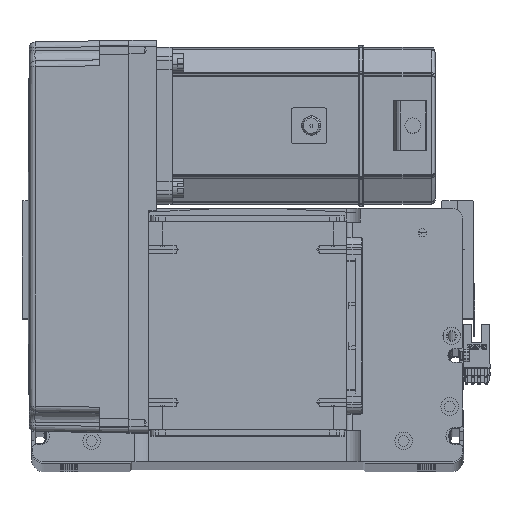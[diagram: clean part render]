
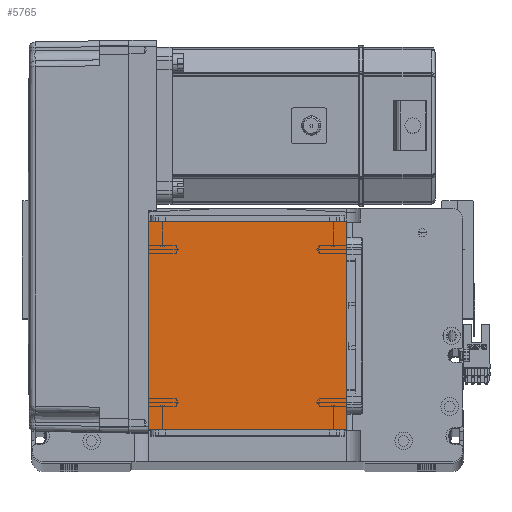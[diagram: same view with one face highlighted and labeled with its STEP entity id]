
A CAD part, top view. The second image highlights one B-rep face of the part: STEP entity #5765.
In plain terms, the highlighted planar face has unit normal (0, 0, 1).
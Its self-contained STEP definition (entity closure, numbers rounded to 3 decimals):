
#1269 = EDGE_CURVE ( 'NONE', #8930, #54705, #41649, .T. ) ;
#1325 = CARTESIAN_POINT ( 'NONE',  ( 50.5, 122., 115. ) ) ;
#2152 = DIRECTION ( 'NONE',  ( -1., 0., 0. ) ) ;
#5765 = ADVANCED_FACE ( 'NONE', ( #23564 ), #46162, .T. ) ;
#8930 = VERTEX_POINT ( 'NONE', #15832 ) ;
#10324 = CARTESIAN_POINT ( 'NONE',  ( -50.5, 122., 115. ) ) ;
#10943 = VERTEX_POINT ( 'NONE', #33573 ) ;
#14562 = ORIENTED_EDGE ( 'NONE', *, *, #24440, .T. ) ;
#15694 = LINE ( 'NONE', #32039, #30067 ) ;
#15832 = CARTESIAN_POINT ( 'NONE',  ( 50.5, 16., 115. ) ) ;
#16164 = EDGE_CURVE ( 'NONE', #50961, #8930, #22563, .T. ) ;
#16242 = AXIS2_PLACEMENT_3D ( 'NONE', #33328, #50582, #37568 ) ;
#19144 = DIRECTION ( 'NONE',  ( 0., -1., 0. ) ) ;
#20572 = EDGE_CURVE ( 'NONE', #10943, #50961, #32914, .T. ) ;
#22563 = LINE ( 'NONE', #23921, #48687 ) ;
#23564 = FACE_OUTER_BOUND ( 'NONE', #49831, .T. ) ;
#23921 = CARTESIAN_POINT ( 'NONE',  ( -50.5, 16., 115. ) ) ;
#24386 = ORIENTED_EDGE ( 'NONE', *, *, #20572, .T. ) ;
#24440 = EDGE_CURVE ( 'NONE', #54705, #10943, #15694, .T. ) ;
#28573 = DIRECTION ( 'NONE',  ( 0., 1., 0. ) ) ;
#29958 = VECTOR ( 'NONE', #28573, 1000. ) ;
#29965 = CARTESIAN_POINT ( 'NONE',  ( 50.5, 122., 115. ) ) ;
#30067 = VECTOR ( 'NONE', #2152, 1000. ) ;
#32039 = CARTESIAN_POINT ( 'NONE',  ( -50.5, 122., 115. ) ) ;
#32914 = LINE ( 'NONE', #10324, #34295 ) ;
#33328 = CARTESIAN_POINT ( 'NONE',  ( 0., 0., 115. ) ) ;
#33573 = CARTESIAN_POINT ( 'NONE',  ( -50.5, 122., 115. ) ) ;
#34295 = VECTOR ( 'NONE', #19144, 1000. ) ;
#37568 = DIRECTION ( 'NONE',  ( 1., 0., 0. ) ) ;
#38932 = ORIENTED_EDGE ( 'NONE', *, *, #1269, .T. ) ;
#41649 = LINE ( 'NONE', #29965, #29958 ) ;
#45195 = DIRECTION ( 'NONE',  ( 1., 0., 0. ) ) ;
#46162 = PLANE ( 'NONE',  #16242 ) ;
#46873 = CARTESIAN_POINT ( 'NONE',  ( -50.5, 16., 115. ) ) ;
#48687 = VECTOR ( 'NONE', #45195, 1000. ) ;
#49831 = EDGE_LOOP ( 'NONE', ( #24386, #53542, #38932, #14562 ) ) ;
#50582 = DIRECTION ( 'NONE',  ( 0., 0., 1. ) ) ;
#50961 = VERTEX_POINT ( 'NONE', #46873 ) ;
#53542 = ORIENTED_EDGE ( 'NONE', *, *, #16164, .T. ) ;
#54705 = VERTEX_POINT ( 'NONE', #1325 ) ;
